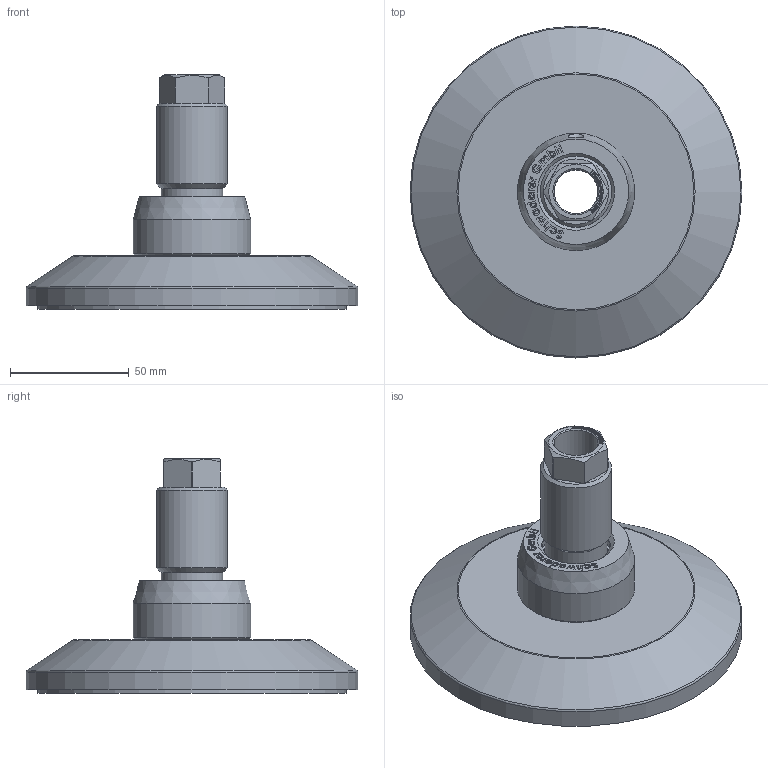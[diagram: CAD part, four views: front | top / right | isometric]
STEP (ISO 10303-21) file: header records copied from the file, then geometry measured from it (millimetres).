
FILE_DESCRIPTION(/* description */ ('JCM 130C - M30 - S6'),/* implementation_level */ '2;1');
FILE_NAME(/* name */ 'P:\CAD ab 2015\STP - Internetseite\JCMHD\JCMHD 130C - S - HSD70.stp',/* time_stamp */ '2021-10-01T09:32:36+02:00',/* author */ ('torsten'),/* organization */ ('Schwaderer GmbH Robert-Bosch-Str. 10 71563 Affalterbach'),/* preprocessor_version */ 'ST-DEVELOPER v18.1',/* originating_system */ 'Autodesk Inventor LT',/* authorisation */ '');
FILE_SCHEMA (('CONFIG_CONTROL_DESIGN'));
Length unit declared in the file: millimetre
Products named in the file (1): JCMHD 130C - S - HSD110
Bounding box: 140 x 140 x 98.9 mm (x, y, z)
Volume: 337463.4 mm3; surface area: 87065.3 mm2
Topology: 4 solids, 4 shells, 479 faces, 1300 edges, 869 vertices
Faces by surface type: plane 243, bspline 192, cylinder 23, cone 17, torus 3, sphere 1
Full cylindrical faces by diameter (mm): 5 x1, 18.5 x2, 25 x1, 26 x1, 26.5 x1, 27.5 x1, 28.5 x2, 30 x2, 31 x1, 49.5 x1, 130 x2, 140 x1
Entity records: 16563 total; most frequent: CARTESIAN_POINT 5618, ORIENTED_EDGE 2600, DIRECTION 1593, EDGE_CURVE 1300, VERTEX_POINT 869, LINE 781, VECTOR 781, EDGE_LOOP 529
